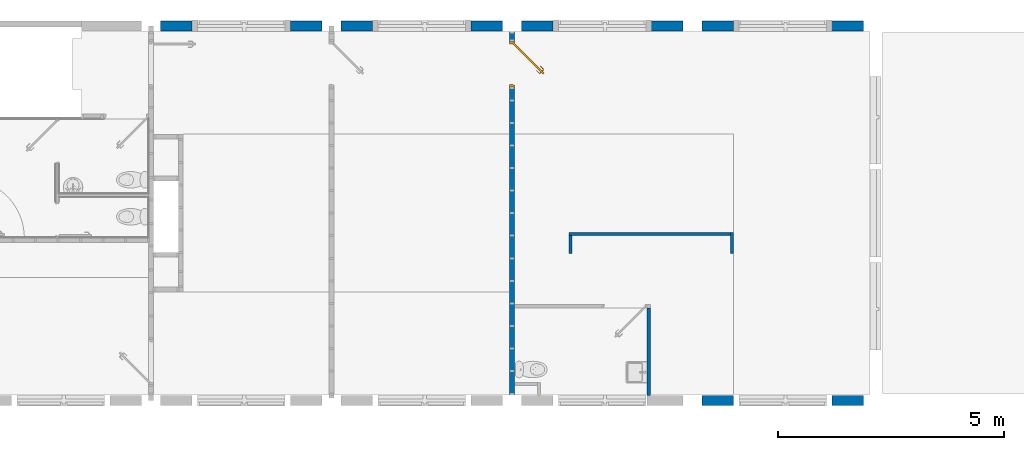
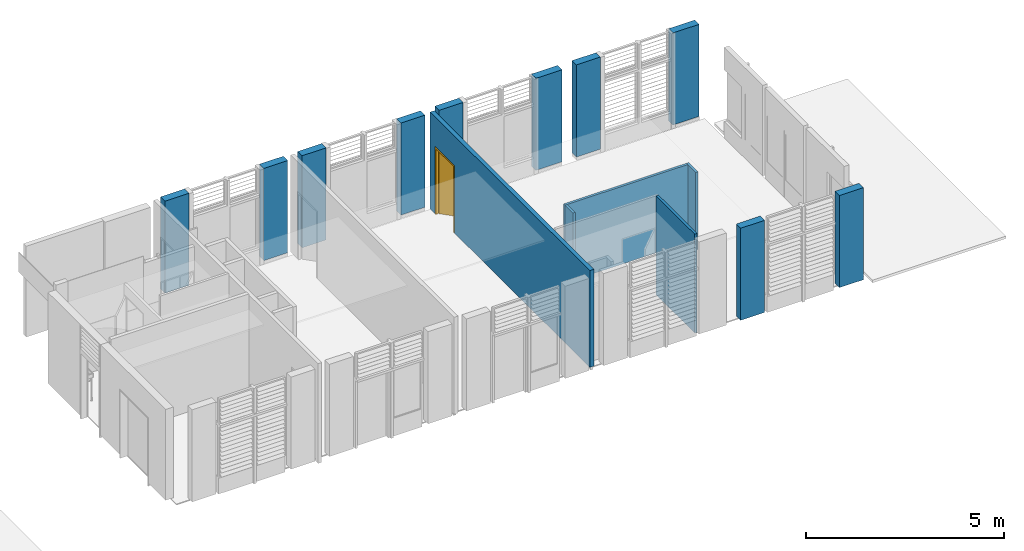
# One storey, part 7 of 15: 15 walls, 1 door, 2 openings.
"""IFC2X3 building model written with IfcOpenShell, lengths in metres."""

from ifc_helpers import new_model, entity, si_unit, converted_unit, derived_unit, direction, frame, frame_2d, origin, place, context, subcontext, project, spatial, rectangle, extrude, faceted_brep, source, transform, mapped, material, layer, layer_set, layer_usage, type_object, type_shapes, element, fill, save


model = new_model("IFC2X3")

# Units and contexts
model_context = context("Model", 3, precision=1e-05, world=origin(), true_north=direction((6.12303176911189e-17, 1.0)))
body_context = subcontext(model_context, "Body", "Model", "MODEL_VIEW")
ifc_project = project(units=[si_unit("LENGTHUNIT", "METRE"), si_unit("AREAUNIT", "SQUARE_METRE"), si_unit("VOLUMEUNIT", "CUBIC_METRE"), converted_unit("PLANEANGLEUNIT", "DEGREE", entity("IfcRatioMeasure", 0.0174532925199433), si_unit("PLANEANGLEUNIT", "RADIAN"), dimensions=[0, 0, 0, 0, 0, 0, 0]), si_unit("MASSUNIT", "GRAM", prefix="KILO"), derived_unit("MASSDENSITYUNIT", [(si_unit("MASSUNIT", "GRAM", prefix="KILO"), 1), (si_unit("LENGTHUNIT", "METRE"), -3)]), si_unit("TIMEUNIT", "SECOND"), si_unit("FREQUENCYUNIT", "HERTZ"), si_unit("THERMODYNAMICTEMPERATUREUNIT", "DEGREE_CELSIUS"), derived_unit("THERMALTRANSMITTANCEUNIT", [(si_unit("MASSUNIT", "GRAM", prefix="KILO"), 1), (si_unit("THERMODYNAMICTEMPERATUREUNIT", "KELVIN"), -1), (si_unit("TIMEUNIT", "SECOND"), -3)]), derived_unit("VOLUMETRICFLOWRATEUNIT", [(si_unit("LENGTHUNIT", "METRE"), 3), (si_unit("TIMEUNIT", "SECOND"), -1)]), si_unit("ELECTRICCURRENTUNIT", "AMPERE"), si_unit("ELECTRICVOLTAGEUNIT", "VOLT"), si_unit("POWERUNIT", "WATT"), si_unit("FORCEUNIT", "NEWTON", prefix="KILO"), si_unit("ILLUMINANCEUNIT", "LUX"), si_unit("LUMINOUSFLUXUNIT", "LUMEN"), si_unit("LUMINOUSINTENSITYUNIT", "CANDELA"), derived_unit("USERDEFINED", [(si_unit("MASSUNIT", "GRAM", prefix="KILO"), -1), (si_unit("LENGTHUNIT", "METRE"), -2), (si_unit("TIMEUNIT", "SECOND"), 3), (si_unit("LUMINOUSFLUXUNIT", "LUMEN"), 1)]), derived_unit("LINEARVELOCITYUNIT", [(si_unit("LENGTHUNIT", "METRE"), 1), (si_unit("TIMEUNIT", "SECOND"), -1)]), si_unit("PRESSUREUNIT", "PASCAL"), derived_unit("USERDEFINED", [(si_unit("LENGTHUNIT", "METRE"), -2), (si_unit("MASSUNIT", "GRAM", prefix="KILO"), 1), (si_unit("TIMEUNIT", "SECOND"), -2)])], contexts=[model_context])

# Site, building, storey
site_placement = place(None, origin())
site = spatial("IfcSite", under=ifc_project, at=site_placement, Name="Surface", CompositionType="ELEMENT")
building_placement = place(site_placement, origin())
building = spatial("IfcBuilding", under=site, at=building_placement, Name="ExPREF", CompositionType="ELEMENT")
storey_placement = place(building_placement, frame((0.0, 0.0, 7.83)))
storey = spatial("IfcBuildingStorey", under=building, at=storey_placement, Name="R+2", CompositionType="ELEMENT", Elevation=7.83)

# Wall, opening, door
ifc_material_1 = material(Name="AA-mur cloison finition")
ifc_layer_1 = layer(ifc_material_1, 0.018)
ifc_material_2 = material(Name="AA-isolant plancher")
ifc_layer_2 = layer(ifc_material_2, 0.08)
ifc_layer_3 = layer(ifc_material_1, 0.018)
ifc_layer_set_1 = layer_set([ifc_layer_1, ifc_layer_2, ifc_layer_3], Name="Mur de base:A-cloison CP 11.6 cm")
ifc_layer_usage_1 = layer_usage(ifc_layer_set_1, "AXIS2", "POSITIVE", -0.058)
wall_type_1 = type_object("IfcWallType", Name="Mur de base:A-cloison CP 11.6 cm", PredefinedType="STANDARD", material=ifc_layer_set_1)
wall_1_placement = place(storey_placement, frame((57.4897436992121, -193.239651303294, 0.0), z_axis=(0.0, 0.0, 1.0), x_axis=(0.0, 1.0, 0.0)))
wall_1 = element("IfcWallStandardCase", 1, at=wall_1_placement, inside=storey, type_object=wall_type_1, material=ifc_layer_usage_1, Name="Mur de base:A-cloison CP 11.6 cm", ObjectType="Mur de base:A-cloison CP 11.6 cm", context=body_context, shape_type="SweptSolid", body=[
    extrude(rectangle(XDim=8.06316335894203, YDim=0.116000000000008, at=frame_2d((4.03158167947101, 8.32667268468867e-17), x_axis=(-1.0, 0.0))), origin(), (0.0, 0.0, 1.0), 2.99),
])
opening_1_placement = place(wall_1_placement, frame((7.83316335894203, 0.0580000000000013, 0.0)))
opening_1 = element("IfcOpeningElement", 2, at=opening_1_placement, cuts=wall_1, Name="Porte intérieur bois:PP (0.93m x 2.04m):1", ObjectType="Opening", context=body_context, shape_type="SweptSolid", body=[
    extrude(rectangle(XDim=2.075, YDim=0.999999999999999, at=frame_2d((1.0375, 0.5), x_axis=(1.0, 0.0))), frame((0.0, 0.0, 0.0), z_axis=(0.0, -1.0, 0.0), x_axis=(0.0, 0.0, 1.0)), (0.0, 0.0, 1.0), 0.116),
])
ifc_material_3 = material(Name="AA-Blanc satiné")
door_style = type_object("IfcDoorStyle", Name="PP (0.93m x 2.04m)", ConstructionType="NOTDEFINED", OperationType="SINGLE_SWING_LEFT", ParameterTakesPrecedence=False, Sizeable=False, material=ifc_material_3)
shared_shape = source(origin(), body_context, "Body", "Brep", [
    faceted_brep([(0.316565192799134, -0.584795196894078, 1.00778044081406), (0.313754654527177, -0.587605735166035, 1.007), (0.31375465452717, -0.587605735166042, 0.992999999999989), (0.316565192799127, -0.584795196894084, 0.99221955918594), (0.319429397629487, -0.581930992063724, 0.992219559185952), (0.32223993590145, -0.579120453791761, 0.993000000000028), (0.322239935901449, -0.579120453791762, 1.007), (0.319429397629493, -0.581930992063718, 1.00778044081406), (0.306340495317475, -0.563221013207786, 0.993000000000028), (0.306340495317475, -0.563221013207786, 1.007), (0.302365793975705, -0.56486738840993, 1.00778044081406), (0.302365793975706, -0.545331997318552, 1.00778044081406), (0.298315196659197, -0.543654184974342, 1.00778044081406), (0.298315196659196, -0.56654520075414, 1.00778044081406), (0.294340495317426, -0.568191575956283, 1.007), (0.294340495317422, -0.568191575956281, 0.992999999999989), (0.298315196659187, -0.566545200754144, 0.99221955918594), (0.298315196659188, -0.543654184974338, 0.99221955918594), (0.302365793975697, -0.545331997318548, 0.992219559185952), (0.302365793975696, -0.564867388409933, 0.992219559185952), (0.306340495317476, -0.546978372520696, 0.993000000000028), (0.306340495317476, -0.546978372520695, 1.007), (0.294340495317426, -0.542007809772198, 1.007), (0.294340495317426, -0.542007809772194, 0.992999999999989), (0.36471958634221, -0.488599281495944, 0.993000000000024), (0.361909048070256, -0.485788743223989, 0.992219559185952), (0.359044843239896, -0.48292453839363, 0.99221955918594), (0.356234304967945, -0.480114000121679, 0.992999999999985), (0.356234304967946, -0.480114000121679, 1.007), (0.359044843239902, -0.482924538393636, 1.00778044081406), (0.361909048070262, -0.485788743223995, 1.00778044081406), (0.364719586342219, -0.488599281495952, 1.007), (0.335530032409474, -0.517788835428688, 0.993000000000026), (0.335530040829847, -0.517788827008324, 1.007), (0.330705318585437, -0.51412826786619, 1.0078786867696), (0.322575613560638, -0.513772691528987, 1.007), (0.322575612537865, -0.513772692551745, 0.992999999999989), (0.330705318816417, -0.514128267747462, 0.992121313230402)], [[[0, 1, 2, 3, 4, 5, 6, 7]], [[6, 5, 8, 9]], [[9, 10, 7, 6]], [[10, 11, 12, 13, 0, 7]], [[13, 14, 1, 0]], [[2, 1, 14, 15]], [[15, 16, 3, 2]], [[16, 17, 18, 19, 4, 3]], [[19, 8, 5, 4]], [[9, 8, 20, 21]], [[21, 11, 10, 9]], [[12, 22, 14, 13]], [[15, 14, 22, 23]], [[23, 17, 16, 15]], [[18, 20, 8, 19]], [[24, 25, 26, 27, 28, 29, 30, 31]], [[21, 20, 32, 24, 31, 33]], [[33, 30, 34]], [[35, 34, 29]], [[21, 33, 11]], [[33, 31, 30]], [[28, 35, 29]], [[22, 12, 35]], [[35, 12, 34]], [[12, 11, 34]], [[11, 33, 34]], [[29, 34, 30]], [[22, 35, 28, 27, 36, 23]], [[36, 26, 37]], [[27, 26, 36]], [[17, 23, 36]], [[37, 32, 18]], [[20, 18, 32]], [[32, 25, 24]], [[26, 25, 37]], [[25, 32, 37]], [[17, 36, 37]], [[17, 37, 18]]]),
    faceted_brep([(0.351920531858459, -0.620150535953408, 1.00778044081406), (0.354784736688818, -0.617286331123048, 1.00778044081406), (0.357595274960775, -0.614475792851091, 1.00699999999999), (0.357595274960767, -0.614475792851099, 0.993000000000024), (0.354784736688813, -0.617286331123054, 0.992219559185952), (0.351920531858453, -0.620150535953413, 0.99221955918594), (0.349109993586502, -0.622961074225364, 0.992999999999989), (0.349109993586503, -0.622961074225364, 1.007), (0.368662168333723, -0.642513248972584, 1.007), (0.370308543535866, -0.638538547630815, 1.00778044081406), (0.3930050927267, -0.638538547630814, 1.00778044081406), (0.391327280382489, -0.634487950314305, 1.00778044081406), (0.371986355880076, -0.634487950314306, 1.00778044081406), (0.373632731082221, -0.630513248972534, 1.007), (0.373632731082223, -0.630513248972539, 0.993000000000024), (0.371986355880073, -0.634487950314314, 0.992219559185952), (0.391327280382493, -0.634487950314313, 0.992219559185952), (0.393005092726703, -0.638538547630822, 0.99221955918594), (0.370308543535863, -0.638538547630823, 0.99221955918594), (0.368662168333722, -0.642513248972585, 0.992999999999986), (0.394651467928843, -0.642513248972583, 1.007), (0.389680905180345, -0.630513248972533, 1.007), (0.38968090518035, -0.630513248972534, 0.993000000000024), (0.394651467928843, -0.642513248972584, 0.992999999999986), (0.456623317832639, -0.580541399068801, 0.992999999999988), (0.453812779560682, -0.577730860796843, 0.99221955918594), (0.450948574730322, -0.574866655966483, 0.992219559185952), (0.448138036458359, -0.57205611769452, 0.993000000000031), (0.44813803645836, -0.572056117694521, 1.007), (0.450948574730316, -0.574866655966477, 1.00778044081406), (0.453812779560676, -0.577730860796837, 1.00778044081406), (0.456623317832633, -0.580541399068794, 1.00699999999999), (0.422886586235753, -0.614278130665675, 1.007), (0.422570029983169, -0.606109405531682, 1.0078786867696), (0.418909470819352, -0.601284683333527, 1.007), (0.418909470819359, -0.601284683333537, 0.993000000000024), (0.422570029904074, -0.606109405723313, 0.992121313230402), (0.422886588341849, -0.614278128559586, 0.992999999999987)], [[[0, 1, 2, 3, 4, 5, 6, 7]], [[8, 9, 0, 7]], [[9, 10, 11, 12, 1, 0]], [[12, 13, 2, 1]], [[3, 2, 13, 14]], [[14, 15, 4, 3]], [[15, 16, 17, 18, 5, 4]], [[18, 19, 6, 5]], [[7, 6, 19, 8]], [[20, 10, 9, 8]], [[11, 21, 13, 12]], [[14, 13, 21, 22]], [[22, 16, 15, 14]], [[17, 23, 19, 18]], [[8, 19, 23, 20]], [[24, 25, 26, 27, 28, 29, 30, 31]], [[32, 30, 33]], [[31, 30, 32]], [[10, 20, 32]], [[33, 34, 11]], [[21, 11, 34]], [[34, 29, 28]], [[30, 29, 33]], [[29, 34, 33]], [[10, 32, 33]], [[10, 33, 11]], [[22, 21, 34, 28, 27, 35]], [[35, 26, 36]], [[37, 36, 25]], [[22, 35, 16]], [[35, 27, 26]], [[24, 37, 25]], [[23, 17, 37]], [[37, 17, 36]], [[17, 16, 36]], [[16, 35, 36]], [[25, 36, 26]], [[20, 23, 37, 24, 31, 32]]]),
    faceted_brep([(0.328853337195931, -0.579578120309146, 0.866003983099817), (0.335674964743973, -0.572756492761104, 0.870000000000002), (0.335674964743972, -0.572756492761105, 1.08), (0.32885333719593, -0.579578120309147, 1.08399601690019), (0.321532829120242, -0.586898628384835, 1.08535898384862), (0.314212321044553, -0.594219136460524, 1.08399601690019), (0.307390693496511, -0.601040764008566, 1.08), (0.307390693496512, -0.601040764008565, 0.870000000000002), (0.314212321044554, -0.594219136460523, 0.866003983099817), (0.321532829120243, -0.586898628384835, 0.86464101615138), (0.325317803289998, -0.576042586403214, 1.08399601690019), (0.33213943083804, -0.569220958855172, 1.08), (0.332139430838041, -0.569220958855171, 0.870000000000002), (0.325317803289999, -0.576042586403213, 0.866003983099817), (0.31799729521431, -0.583363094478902, 0.86464101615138), (0.310676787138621, -0.59068360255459, 0.866003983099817), (0.303855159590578, -0.597505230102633, 0.870000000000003), (0.303855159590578, -0.597505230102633, 1.08), (0.31067678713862, -0.590683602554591, 1.08399601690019), (0.317997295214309, -0.583363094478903, 1.08535898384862)], [[[0, 1, 2, 3, 4, 5, 6, 7, 8, 9]], [[10, 11, 12, 13, 14, 15, 16, 17, 18, 19]], [[11, 10, 3, 2]], [[3, 10, 19, 4]], [[19, 18, 5, 4]], [[18, 17, 6, 5]], [[7, 6, 17, 16]], [[16, 15, 8, 7]], [[8, 15, 14, 9]], [[14, 13, 0, 9]], [[13, 12, 1, 0]], [[2, 1, 12, 11]]]),
    faceted_brep([(0.360673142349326, -0.61139792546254, 0.866003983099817), (0.367494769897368, -0.604576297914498, 0.870000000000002), (0.367494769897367, -0.604576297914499, 1.08), (0.360673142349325, -0.611397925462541, 1.08399601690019), (0.353352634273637, -0.61871843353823, 1.08535898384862), (0.346032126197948, -0.626038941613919, 1.08399601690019), (0.339210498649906, -0.632860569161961, 1.08), (0.339210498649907, -0.63286056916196, 0.870000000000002), (0.346032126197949, -0.626038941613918, 0.866003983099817), (0.353352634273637, -0.618718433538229, 0.86464101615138), (0.357137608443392, -0.607862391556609, 1.08399601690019), (0.363959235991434, -0.601040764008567, 1.08), (0.363959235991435, -0.601040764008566, 0.870000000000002), (0.357137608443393, -0.607862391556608, 0.866003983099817), (0.349817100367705, -0.615182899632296, 0.86464101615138), (0.342496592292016, -0.622503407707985, 0.866003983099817), (0.335674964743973, -0.629325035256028, 0.870000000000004), (0.335674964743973, -0.629325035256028, 1.08), (0.342496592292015, -0.622503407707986, 1.08399601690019), (0.349817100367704, -0.615182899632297, 1.08535898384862)], [[[0, 1, 2, 3, 4, 5, 6, 7, 8, 9]], [[10, 11, 12, 13, 14, 15, 16, 17, 18, 19]], [[16, 15, 8, 7]], [[8, 15, 14, 9]], [[14, 13, 0, 9]], [[13, 12, 1, 0]], [[2, 1, 12, 11]], [[11, 10, 3, 2]], [[3, 10, 19, 4]], [[19, 18, 5, 4]], [[18, 17, 6, 5]], [[7, 6, 17, 16]]]),
    faceted_brep([(0.279106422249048, -0.629325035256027, 2.04), (0.936715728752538, 0.0282842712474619, 2.04), (0.936715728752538, 0.0282842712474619, 0.0), (0.279106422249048, -0.629325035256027, 0.0), (0.30739069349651, -0.657609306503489, 2.04), (0.30739069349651, -0.657609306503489, 0.0), (0.965, 0.0, 0.0), (0.965, 0.0, 2.04)], [[[0, 1, 2, 3]], [[4, 5, 6, 7]], [[1, 0, 4, 7]], [[2, 1, 7, 6]], [[3, 2, 6, 5]], [[0, 3, 5, 4]]]),
    faceted_brep([(0.0, 0.0, 0.0), (0.0, 0.116000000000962, 0.0), (0.0499999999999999, 0.116000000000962, 0.0), (0.0499999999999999, 0.0400000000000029, 0.0), (0.0349999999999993, 0.0400000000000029, 0.0), (0.0349999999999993, 0.0, 0.0), (0.0, 0.0, 2.07500000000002), (0.0, 0.116000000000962, 2.07500000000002), (1.0, 0.116000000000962, 2.07500000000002), (1.0, 0.116000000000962, 0.0), (0.95, 0.116000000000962, 0.0), (0.95, 0.116000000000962, 2.025), (0.0500000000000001, 0.116000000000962, 2.025), (0.05, 0.0400000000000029, 2.025), (0.95, 0.0400000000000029, 2.025), (0.95, 0.0400000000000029, 0.0), (0.965, 0.0400000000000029, 0.0), (0.965, 0.0400000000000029, 2.04), (0.0349999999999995, 0.0400000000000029, 2.04), (0.0349999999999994, 0.0, 2.04), (0.965, 0.0, 2.04), (0.965, 0.0, 0.0), (1.0, 0.0, 0.0), (1.0, 0.0, 2.07500000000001)], [[[0, 1, 2, 3, 4, 5]], [[1, 0, 6, 7]], [[2, 1, 7, 8, 9, 10, 11, 12]], [[3, 2, 12, 13]], [[4, 3, 13, 14, 15, 16, 17, 18]], [[5, 4, 18, 19]], [[0, 5, 19, 20, 21, 22, 23, 6]], [[8, 23, 22, 9]], [[22, 21, 16, 15, 10, 9]], [[14, 11, 10, 15]], [[20, 17, 16, 21]], [[7, 6, 23, 8]], [[13, 12, 11, 14]], [[19, 18, 17, 20]]]),
])
type_shapes(door_style, [shared_shape])
door_placement = place(opening_1_placement, frame((-1.0, -0.116000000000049, 0.0)))
door = element("IfcDoor", 3, at=door_placement, inside=storey, type_object=door_style, material=ifc_material_3, Name="Porte intérieur bois:PP (0.93m x 2.04m)", ObjectType="PP (0.93m x 2.04m)", OverallHeight=2.075, OverallWidth=1.00000000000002, context=body_context, shape_type="MappedRepresentation", body=[
    mapped(shared_shape, transform((0.0, 0.0, 0.0), scale=1.0)),
])
fill(opening_1, door)

# Wall, opening
ifc_material_4 = material(Name="AA-fermacell peint")
ifc_layer_4 = layer(ifc_material_4, 0.0125)
ifc_layer_5 = layer(ifc_material_2, 0.045)
ifc_layer_6 = layer(ifc_material_4, 0.0125)
ifc_layer_set_2 = layer_set([ifc_layer_4, ifc_layer_5, ifc_layer_6], Name="Mur de base:Générique - Int. 70 mm")
ifc_layer_usage_2 = layer_usage(ifc_layer_set_2, "AXIS2", "POSITIVE", -0.035)
wall_type_2 = type_object("IfcWallType", Name="Mur de base:Générique - Int. 70 mm", PredefinedType="STANDARD", material=ifc_layer_set_2)
wall_2_placement = place(storey_placement, frame((60.5197436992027, -193.249651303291, 0.0), z_axis=(0.0, 0.0, 1.0), x_axis=(0.0, 1.0, 0.0)))
wall_2 = element("IfcWallStandardCase", 4, at=wall_2_placement, inside=storey, type_object=wall_type_2, material=ifc_layer_usage_2, Name="Mur de base:Générique - Int. 70 mm", ObjectType="Mur de base:Générique - Int. 70 mm", context=body_context, shape_type="SweptSolid", body=[
    extrude(rectangle(XDim=1.94405519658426, YDim=0.0700000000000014, at=frame_2d((0.972027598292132, -2.06779038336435e-15), x_axis=(-1.0, 0.0))), origin(), (0.0, 0.0, 1.0), 3.05),
])
opening_2_placement = place(wall_2_placement, frame((1.94405519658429, 1.03499999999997, 0.0)))
element("IfcOpeningElement", 5, at=opening_2_placement, cuts=wall_2, Name="Mur de base:Générique - Int. 70 mm", ObjectType="Opening", context=body_context, shape_type="SweptSolid", body=[
    extrude(rectangle(XDim=2.075, YDim=0.0699999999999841, at=frame_2d((-1.73264180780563e-14, 5.55111512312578e-16), x_axis=(0.0, 1.0))), frame((0.0349999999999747, -1.0, 1.0375), z_axis=(0.0, 1.0, 0.0), x_axis=(1.0, 0.0, 0.0)), (0.0, 0.0, 1.0), 0.999999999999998),
])

# Walls
ifc_layer_usage_3 = layer_usage(ifc_layer_set_2, "AXIS2", "NEGATIVE", 0.035)
wall_3_placement = place(storey_placement, frame((62.3297436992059, -189.670596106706, 0.0), z_axis=(0.0, 0.0, 1.0), x_axis=(-1.0, 0.0, 0.0)))
element("IfcWallStandardCase", 6, at=wall_3_placement, inside=storey, type_object=wall_type_2, material=ifc_layer_usage_3, Name="Mur de base:Générique - Int. 70 mm", ObjectType="Mur de base:Générique - Int. 70 mm", context=body_context, shape_type="SweptSolid", body=[
    extrude(rectangle(XDim=3.58199999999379, YDim=0.0700000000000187, at=frame_2d((1.79099999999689, 0.0), x_axis=(-1.0, 0.0))), origin(), (0.0, 0.0, 1.0), 2.4),
])
ifc_layer_usage_4 = layer_usage(ifc_layer_set_2, "AXIS2", "POSITIVE", -0.035)
wall_4_placement = place(storey_placement, frame((62.3647436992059, -189.635596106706, 0.0), z_axis=(0.0, 0.0, 1.0), x_axis=(0.0, -1.0, 0.0)))
element("IfcWallStandardCase", 7, at=wall_4_placement, inside=storey, type_object=wall_type_2, material=ifc_layer_usage_4, Name="Mur de base:Générique - Int. 70 mm", ObjectType="Mur de base:Générique - Int. 70 mm", context=body_context, shape_type="SweptSolid", body=[
    extrude(rectangle(XDim=0.469999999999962, YDim=0.0700000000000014, at=frame_2d((0.234999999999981, 0.0), x_axis=(-1.0, 0.0))), origin(), (0.0, 0.0, 1.0), 2.4),
])
ifc_layer_usage_5 = layer_usage(ifc_layer_set_2, "AXIS2", "NEGATIVE", 0.035)
wall_5_placement = place(storey_placement, frame((58.7827436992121, -189.705596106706, 0.0), z_axis=(0.0, 0.0, 1.0), x_axis=(0.0, -1.0, 0.0)))
element("IfcWallStandardCase", 8, at=wall_5_placement, inside=storey, type_object=wall_type_2, material=ifc_layer_usage_5, Name="Mur de base:Générique - Int. 70 mm", ObjectType="Mur de base:Générique - Int. 70 mm", context=body_context, shape_type="SweptSolid", body=[
    extrude(rectangle(XDim=0.399999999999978, YDim=0.0700000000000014, at=frame_2d((0.199999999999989, 0.0), x_axis=(-1.0, 0.0))), origin(), (0.0, 0.0, 1.0), 2.4),
])
ifc_material_5 = material(Name="AA-BTC")
ifc_layer_7 = layer(ifc_material_5, 0.22)
ifc_layer_set_3 = layer_set([ifc_layer_7], Name="Mur de base:A-prémur BTC")
ifc_layer_usage_6 = layer_usage(ifc_layer_set_3, "AXIS2", "POSITIVE", -0.11)
wall_type_3 = type_object("IfcWallType", Name="Mur de base:A-prémur BTC", PredefinedType="STANDARD", material=ifc_layer_set_3)
wall_6_placement = place(storey_placement, frame((49.6997436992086, -185.056487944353, 0.0999999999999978)))
element("IfcWallStandardCase", 9, at=wall_6_placement, inside=storey, type_object=wall_type_3, material=ifc_layer_usage_6, Name="Mur de base:A-prémur BTC", ObjectType="Mur de base:A-prémur BTC", context=body_context, shape_type="SweptSolid", body=[
    extrude(rectangle(XDim=0.700000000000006, YDim=0.220000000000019, at=frame_2d((0.350000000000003, -9.06913433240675e-15), x_axis=(-1.0, 0.0))), origin(), (0.0, 0.0, 1.0), 2.84),
])
ifc_layer_usage_7 = layer_usage(ifc_layer_set_3, "AXIS2", "NEGATIVE", 0.11)
wall_7_placement = place(storey_placement, frame((53.2797436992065, -185.056487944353, 0.0999999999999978), z_axis=(0.0, 0.0, 1.0), x_axis=(-1.0, 0.0, 0.0)))
element("IfcWallStandardCase", 10, at=wall_7_placement, inside=storey, type_object=wall_type_3, material=ifc_layer_usage_7, Name="Mur de base:A-prémur BTC", ObjectType="Mur de base:A-prémur BTC", context=body_context, shape_type="SweptSolid", body=[
    extrude(rectangle(XDim=0.700000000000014, YDim=0.220000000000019, at=frame_2d((0.350000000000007, -9.06913433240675e-15), x_axis=(-1.0, 0.0))), origin(), (0.0, 0.0, 1.0), 2.84),
])
ifc_layer_usage_8 = layer_usage(ifc_layer_set_3, "AXIS2", "POSITIVE", -0.11)
wall_8_placement = place(storey_placement, frame((53.6997436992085, -185.056487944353, 0.0999999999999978)))
element("IfcWallStandardCase", 11, at=wall_8_placement, inside=storey, type_object=wall_type_3, material=ifc_layer_usage_8, Name="Mur de base:A-prémur BTC", ObjectType="Mur de base:A-prémur BTC", context=body_context, shape_type="SweptSolid", body=[
    extrude(rectangle(XDim=0.700000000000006, YDim=0.220000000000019, at=frame_2d((0.350000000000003, -9.06913433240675e-15), x_axis=(-1.0, 0.0))), origin(), (0.0, 0.0, 1.0), 2.84),
])
ifc_layer_usage_9 = layer_usage(ifc_layer_set_3, "AXIS2", "NEGATIVE", 0.11)
wall_9_placement = place(storey_placement, frame((57.2797436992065, -185.056487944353, 0.0999999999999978), z_axis=(0.0, 0.0, 1.0), x_axis=(-1.0, 0.0, 0.0)))
element("IfcWallStandardCase", 12, at=wall_9_placement, inside=storey, type_object=wall_type_3, material=ifc_layer_usage_9, Name="Mur de base:A-prémur BTC", ObjectType="Mur de base:A-prémur BTC", context=body_context, shape_type="SweptSolid", body=[
    extrude(rectangle(XDim=0.700000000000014, YDim=0.220000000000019, at=frame_2d((0.350000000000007, -9.06913433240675e-15), x_axis=(-1.0, 0.0))), origin(), (0.0, 0.0, 1.0), 2.84),
])
ifc_layer_usage_10 = layer_usage(ifc_layer_set_3, "AXIS2", "POSITIVE", -0.11)
wall_10_placement = place(storey_placement, frame((57.6997436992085, -185.056487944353, 0.0999999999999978)))
element("IfcWallStandardCase", 13, at=wall_10_placement, inside=storey, type_object=wall_type_3, material=ifc_layer_usage_10, Name="Mur de base:A-prémur BTC", ObjectType="Mur de base:A-prémur BTC", context=body_context, shape_type="SweptSolid", body=[
    extrude(rectangle(XDim=0.700000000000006, YDim=0.220000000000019, at=frame_2d((0.350000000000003, -9.06913433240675e-15), x_axis=(-1.0, 0.0))), origin(), (0.0, 0.0, 1.0), 2.84),
])
ifc_layer_usage_11 = layer_usage(ifc_layer_set_3, "AXIS2", "NEGATIVE", 0.11)
wall_11_placement = place(storey_placement, frame((61.2797436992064, -185.056487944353, 0.0999999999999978), z_axis=(0.0, 0.0, 1.0), x_axis=(-1.0, 0.0, 0.0)))
element("IfcWallStandardCase", 14, at=wall_11_placement, inside=storey, type_object=wall_type_3, material=ifc_layer_usage_11, Name="Mur de base:A-prémur BTC", ObjectType="Mur de base:A-prémur BTC", context=body_context, shape_type="SweptSolid", body=[
    extrude(rectangle(XDim=0.760000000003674, YDim=0.220000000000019, at=frame_2d((0.380000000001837, -8.36830604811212e-15), x_axis=(-1.0, 0.0))), origin(), (0.0, 0.0, 1.0), 2.84),
])
ifc_layer_usage_12 = layer_usage(ifc_layer_set_3, "AXIS2", "POSITIVE", -0.11)
wall_12_placement = place(storey_placement, frame((61.6997436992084, -185.056487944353, 0.0999999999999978)))
element("IfcWallStandardCase", 15, at=wall_12_placement, inside=storey, type_object=wall_type_3, material=ifc_layer_usage_12, Name="Mur de base:A-prémur BTC", ObjectType="Mur de base:A-prémur BTC", context=body_context, shape_type="SweptSolid", body=[
    extrude(rectangle(XDim=0.700000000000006, YDim=0.220000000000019, at=frame_2d((0.350000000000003, -9.06913433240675e-15), x_axis=(-1.0, 0.0))), origin(), (0.0, 0.0, 1.0), 2.84),
])
ifc_layer_usage_13 = layer_usage(ifc_layer_set_3, "AXIS2", "NEGATIVE", 0.11)
wall_13_placement = place(storey_placement, frame((65.2797436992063, -185.056487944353, 0.0999999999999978), z_axis=(0.0, 0.0, 1.0), x_axis=(-1.0, 0.0, 0.0)))
element("IfcWallStandardCase", 16, at=wall_13_placement, inside=storey, type_object=wall_type_3, material=ifc_layer_usage_13, Name="Mur de base:A-prémur BTC", ObjectType="Mur de base:A-prémur BTC", context=body_context, shape_type="SweptSolid", body=[
    extrude(rectangle(XDim=0.760000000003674, YDim=0.220000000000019, at=frame_2d((0.380000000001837, -8.36830604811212e-15), x_axis=(-1.0, 0.0))), origin(), (0.0, 0.0, 1.0), 2.84),
])
ifc_layer_usage_14 = layer_usage(ifc_layer_set_3, "AXIS2", "NEGATIVE", 0.11)
wall_14_placement = place(storey_placement, frame((61.6997436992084, -193.359651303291, 0.0999999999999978)))
element("IfcWallStandardCase", 17, at=wall_14_placement, inside=storey, type_object=wall_type_3, material=ifc_layer_usage_14, Name="Mur de base:A-prémur BTC", ObjectType="Mur de base:A-prémur BTC", context=body_context, shape_type="SweptSolid", body=[
    extrude(rectangle(XDim=0.699999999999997, YDim=0.220000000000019, at=frame_2d((0.349999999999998, -5.98826543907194e-15), x_axis=(-1.0, 0.0))), origin(), (0.0, 0.0, 1.0), 2.84),
])
ifc_layer_usage_15 = layer_usage(ifc_layer_set_3, "AXIS2", "POSITIVE", -0.11)
wall_15_placement = place(storey_placement, frame((65.2797436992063, -193.359651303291, 0.0999999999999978), z_axis=(0.0, 0.0, 1.0), x_axis=(-1.0, 0.0, 0.0)))
element("IfcWallStandardCase", 18, at=wall_15_placement, inside=storey, type_object=wall_type_3, material=ifc_layer_usage_15, Name="Mur de base:A-prémur BTC", ObjectType="Mur de base:A-prémur BTC", context=body_context, shape_type="SweptSolid", body=[
    extrude(rectangle(XDim=0.700000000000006, YDim=0.220000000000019, at=frame_2d((0.350000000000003, -5.98826543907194e-15), x_axis=(-1.0, 0.0))), origin(), (0.0, 0.0, 1.0), 2.84),
])

save(model, "model.ifc")
